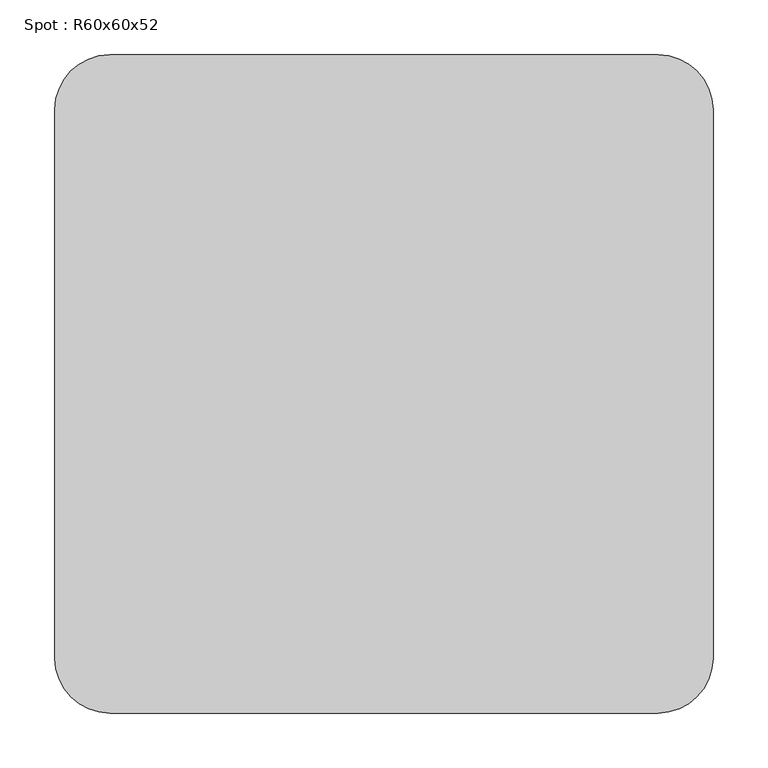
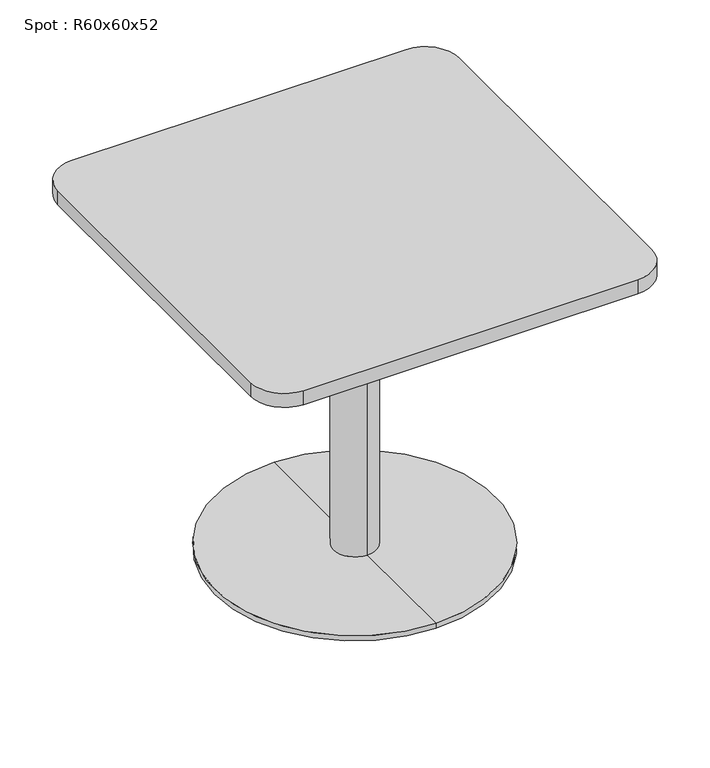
"""IFC4 building model written with IfcOpenShell, lengths in millimetres: furniture geometry, Spot : R60x60x52."""

from ifc_helpers import new_model, si_unit, point, frame, frame_2d, origin, place, context, project, spatial, polyline, circle_curve, trimmed, segment, composite_curve, outline, extrude, source, transform, mapped, element, save
from ifc_brep_helpers import plane_surface, cylinder_surface, revolved_surface, advanced_brep


def spot_r60x60x52_19da6469(model_context):
    return source(origin(), model_context, "Body", "SolidModel", [
        extrude(outline(composite_curve([segment(trimmed(circle_curve(frame_2d((250.0, 250.0)), 50.0), [point((250.0, 300.0))], [point((300.0, 250.0))], False, "CARTESIAN"), True, "CONTINUOUS"), segment(polyline([(300.0, 250.0), (300.0, -250.0)]), True, "CONTINUOUS"), segment(trimmed(circle_curve(frame_2d((250.0, -250.0)), 50.0), [point((300.0, -250.0))], [point((250.0, -300.0))], False, "CARTESIAN"), True, "CONTINUOUS"), segment(polyline([(250.0, -300.0), (-250.0, -300.0)]), True, "CONTINUOUS"), segment(trimmed(circle_curve(frame_2d((-250.0, -250.0)), 50.0), [point((-250.0, -300.0))], [point((-300.0, -250.0))], False, "CARTESIAN"), True, "CONTINUOUS"), segment(polyline([(-300.0, -250.0), (-300.0, 250.0)]), True, "CONTINUOUS"), segment(trimmed(circle_curve(frame_2d((-250.0, 250.0)), 50.0), [point((-300.0, 250.0))], [point((-250.0, 300.0))], False, "CARTESIAN"), True, "CONTINUOUS"), segment(polyline([(-250.0, 300.0), (250.0, 300.0)]), True, "CONTINUOUS")], self_intersect=False)), frame((0.0, 0.0, 498.0), z_axis=(0.0, 0.0, 1.0), x_axis=(1.0, 0.0, 0.0)), (0.0, 0.0, 1.0), 22.0),
        advanced_brep(
        [(0.0, 32.0, 10.0), (0.0, -32.0, 10.0), (0.0, -32.0, 467.406916), (0.0, 32.0, 467.406916), (0.0, 210.0, 10.0), (0.0, -210.0, 10.0), (0.0, 210.0, 2.0), (0.0, -210.0, 2.0), (0.0, 0.0, 2.0), (0.0, 150.0, 498.0), (0.0, -150.0, 498.0), (0.0, 0.0, 498.0), (0.0, 150.0, 486.7213673), (0.0, -150.0, 486.7213673)],
        [
            (0, 1, circle_curve(frame((0.0, 0.0, 10.0), z_axis=(0.0, 0.0, 1.0), x_axis=(0.0, -1.0, 0.0)), 32.0)),
            (1, 2),
            (2, 3, circle_curve(frame((0.0, 0.0, 467.406916), z_axis=(0.0, 0.0, -1.0), x_axis=(0.0, -1.0, 0.0)), 32.0)),
            (3, 0),
            (1, 0, circle_curve(frame((0.0, 0.0, 10.0), z_axis=(0.0, 0.0, 1.0), x_axis=(0.0, -1.0, 0.0)), 32.0)),
            (3, 2, circle_curve(frame((0.0, 0.0, 467.406916), z_axis=(0.0, 0.0, -1.0), x_axis=(0.0, -1.0, 0.0)), 32.0)),
            (4, 5, circle_curve(frame((0.0, 0.0, 10.0), z_axis=(0.0, 0.0, 1.0), x_axis=(0.0, -1.0, 0.0)), 210.0)),
            (5, 1),
            (0, 4),
            (5, 4, circle_curve(frame((0.0, 0.0, 10.0), z_axis=(0.0, 0.0, 1.0), x_axis=(0.0, -1.0, 0.0)), 210.0)),
            (6, 7, circle_curve(frame((0.0, 0.0, 2.0), z_axis=(0.0, 0.0, 1.0), x_axis=(0.0, -1.0, 0.0)), 210.0)),
            (7, 5),
            (4, 6),
            (7, 6, circle_curve(frame((0.0, 0.0, 2.0), z_axis=(0.0, 0.0, 1.0), x_axis=(0.0, -1.0, 0.0)), 210.0)),
            (8, 7),
            (6, 8),
            (9, 10, circle_curve(frame((0.0, 0.0, 498.0), z_axis=(0.0, 0.0, 1.0), x_axis=(0.0, -1.0, 0.0)), 150.0)),
            (10, 11),
            (11, 9),
            (10, 9, circle_curve(frame((0.0, 0.0, 498.0), z_axis=(0.0, 0.0, 1.0), x_axis=(0.0, -1.0, 0.0)), 150.0)),
            (12, 13, circle_curve(frame((0.0, 0.0, 486.7213673), z_axis=(0.0, 0.0, 1.0), x_axis=(0.0, -1.0, 0.0)), 150.0)),
            (13, 10),
            (9, 12),
            (13, 12, circle_curve(frame((0.0, 0.0, 486.7213673), z_axis=(0.0, 0.0, 1.0), x_axis=(0.0, -1.0, 0.0)), 150.0)),
            (2, 13),
            (12, 3),
        ],
        [
            cylinder_surface(frame((0.0, 0.0, 860.0), z_axis=(0.0, 0.0, -1.0), x_axis=(0.0, -1.0, 0.0)), 32.0),
            plane_surface(frame((0.0, 0.0, 10.0), z_axis=(0.0, 0.0, 1.0), x_axis=(0.0, -1.0, 0.0))),
            cylinder_surface(frame((0.0, 0.0, 860.0), z_axis=(0.0, 0.0, -1.0), x_axis=(0.0, -1.0, 0.0)), 210.0),
            plane_surface(frame((0.0, 0.0, 2.0), z_axis=(0.0, 0.0, -1.0), x_axis=(0.0, -1.0, 0.0))),
            plane_surface(frame((0.0, 0.0, 498.0), z_axis=(0.0, 0.0, 1.0), x_axis=(0.0, -1.0, 0.0))),
            cylinder_surface(frame((0.0, 0.0, 860.0), z_axis=(0.0, 0.0, -1.0), x_axis=(0.0, -1.0, 0.0)), 150.0),
            revolved_surface(polyline([(0.0, -150.0, 486.7213673), (0.0, -32.0, 467.406916)]), (0.0, 0.0, 860.0), (0.0, 0.0, -1.0)),
        ],
        [
            (0, [[1, 2, 3, 4]]),
            (0, [[5, -4, 6, -2]]),
            (1, [[7, 8, -1, 9]]),
            (1, [[10, -9, -5, -8]]),
            (2, [[11, 12, -7, 13]]),
            (2, [[14, -13, -10, -12]]),
            (3, [[15, -11, 16]]),
            (3, [[-16, -14, -15]]),
            (4, [[17, 18, 19]]),
            (4, [[20, -19, -18]]),
            (5, [[21, 22, -17, 23]]),
            (5, [[24, -23, -20, -22]]),
            (6, [[-3, 25, -21, 26]]),
            (6, [[-6, -26, -24, -25]]),
        ],
    ),
    ])


if __name__ == "__main__":
    model = new_model("IFC4")
    model_context = context("Model", 3, world=origin())
    ifc_project = project(units=[si_unit("LENGTHUNIT", "METRE", prefix="MILLI")], contexts=[model_context])
    site = spatial("IfcSite", under=ifc_project)
    building = spatial("IfcBuilding", under=site)
    placement = place(None, origin())
    spot_r60x60x52_shape = spot_r60x60x52_19da6469(model_context)
    element("IfcFurniture", 1, ObjectType="Spot : R60x60x52", at=placement, inside=building, context=model_context, shape_type="MappedRepresentation", body=[
        mapped(spot_r60x60x52_shape, transform((0.0, 0.0, 0.0), x_axis=(1.0, 0.0, 0.0), y_axis=(0.0, 1.0, 0.0), z_axis=(0.0, 0.0, 1.0))),
    ])
    save(model, "model.ifc")
